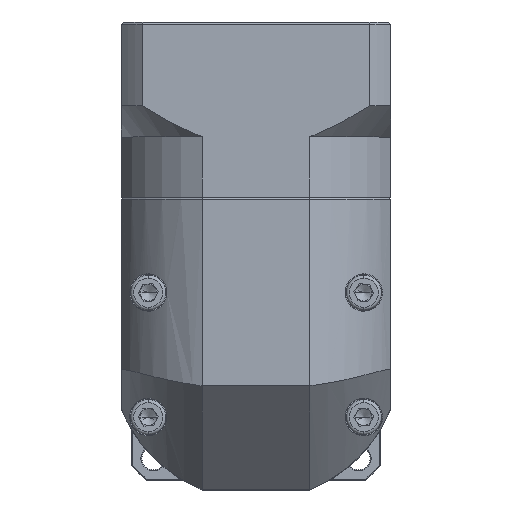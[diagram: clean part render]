
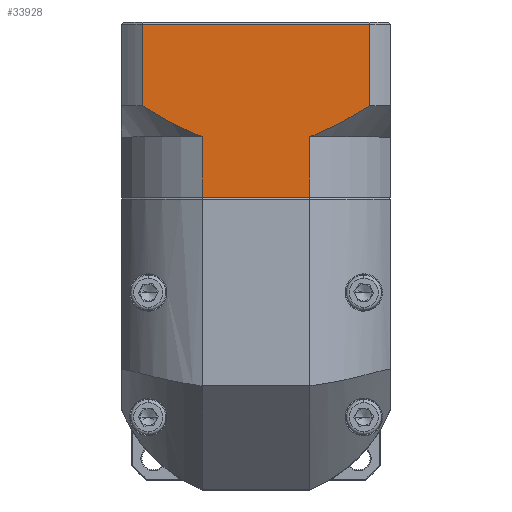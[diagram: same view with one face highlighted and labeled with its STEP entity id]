
A CAD part, top view. The second image highlights one B-rep face of the part: STEP entity #33928.
In plain terms, the highlighted planar face has unit normal (0, 0, 1).
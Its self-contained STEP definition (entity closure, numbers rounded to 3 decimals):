
#298 = VECTOR ( 'NONE', #43413, 1000. ) ;
#1172 = CARTESIAN_POINT ( 'NONE',  ( -93.716, 111.726, 74.497 ) ) ;
#1509 = ORIENTED_EDGE ( 'NONE', *, *, #10105, .F. ) ;
#3596 = CARTESIAN_POINT ( 'NONE',  ( -93.716, 112.226, 74.497 ) ) ;
#4017 = B_SPLINE_CURVE_WITH_KNOTS ( 'NONE', 3,
 ( #56188, #101647, #38727, #91149, #110577, #100879, #47643, #57329 ),
 .UNSPECIFIED., .F., .F.,
 ( 4, 2, 2, 4 ),
 ( 0.058, 0.062, 0.066, 0.074 ),
 .UNSPECIFIED. ) ;
#5671 = VECTOR ( 'NONE', #112156, 1000. ) ;
#10105 = EDGE_CURVE ( 'NONE', #84211, #26375, #19356, .T. ) ;
#10230 = PLANE ( 'NONE',  #92569 ) ;
#12457 = VERTEX_POINT ( 'NONE', #61318 ) ;
#13025 = EDGE_CURVE ( 'NONE', #113148, #12457, #111567, .T. ) ;
#18140 = CARTESIAN_POINT ( 'NONE',  ( -47.584, 84.764, 74.497 ) ) ;
#18513 = CARTESIAN_POINT ( 'NONE',  ( -46.945, 85.017, 74.497 ) ) ;
#19356 = LINE ( 'NONE', #77652, #102766 ) ;
#19749 = CARTESIAN_POINT ( 'NONE',  ( -88.602, 92.026, 74.497 ) ) ;
#20869 = FACE_OUTER_BOUND ( 'NONE', #55506, .T. ) ;
#22098 = VECTOR ( 'NONE', #70366, 1000. ) ;
#23986 = EDGE_CURVE ( 'NONE', #108946, #45841, #42976, .T. ) ;
#24713 = B_SPLINE_CURVE_WITH_KNOTS ( 'NONE', 3,
 ( #71764, #18140, #18513, #35246, #34874, #98149, #44979, #107073, #107477, #61246 ),
 .UNSPECIFIED., .F., .F.,
 ( 4, 2, 2, 2, 4 ),
 ( 0.101, 0.103, 0.105, 0.109, 0.117 ),
 .UNSPECIFIED. ) ;
#26312 = ORIENTED_EDGE ( 'NONE', *, *, #79252, .T. ) ;
#26375 = VERTEX_POINT ( 'NONE', #104600 ) ;
#26965 = CARTESIAN_POINT ( 'NONE',  ( -93.716, 70.026, 74.497 ) ) ;
#27811 = ORIENTED_EDGE ( 'NONE', *, *, #33850, .T. ) ;
#32133 = LINE ( 'NONE', #64859, #5671 ) ;
#33850 = EDGE_CURVE ( 'NONE', #35344, #12457, #58415, .T. ) ;
#33928 = ADVANCED_FACE ( 'NONE', ( #20869 ), #10230, .F. ) ;
#34406 = DIRECTION ( 'NONE',  ( 1., 0., 0. ) ) ;
#34874 = CARTESIAN_POINT ( 'NONE',  ( -45.059, 85.816, 74.497 ) ) ;
#35246 = CARTESIAN_POINT ( 'NONE',  ( -45.683, 85.543, 74.497 ) ) ;
#35344 = VERTEX_POINT ( 'NONE', #115171 ) ;
#38727 = CARTESIAN_POINT ( 'NONE',  ( -86.313, 90.577, 74.497 ) ) ;
#39615 = EDGE_CURVE ( 'NONE', #113148, #26375, #24713, .T. ) ;
#39955 = ORIENTED_EDGE ( 'NONE', *, *, #23986, .F. ) ;
#42976 = LINE ( 'NONE', #54371, #22098 ) ;
#43413 = DIRECTION ( 'NONE',  ( 0., -1., 0. ) ) ;
#44164 = CARTESIAN_POINT ( 'NONE',  ( -33.83, 111.726, 74.497 ) ) ;
#44439 = ORIENTED_EDGE ( 'NONE', *, *, #98175, .F. ) ;
#44979 = CARTESIAN_POINT ( 'NONE',  ( -41.993, 87.272, 74.497 ) ) ;
#45841 = VERTEX_POINT ( 'NONE', #50595 ) ;
#46175 = CARTESIAN_POINT ( 'NONE',  ( -74.207, 84.526, 74.497 ) ) ;
#47496 = DIRECTION ( 'NONE',  ( 0., 0., -1. ) ) ;
#47643 = CARTESIAN_POINT ( 'NONE',  ( -76.745, 85.468, 74.497 ) ) ;
#49341 = LINE ( 'NONE', #1172, #57706 ) ;
#50595 = CARTESIAN_POINT ( 'NONE',  ( -88.602, 111.726, 74.497 ) ) ;
#52141 = ORIENTED_EDGE ( 'NONE', *, *, #104065, .T. ) ;
#54371 = CARTESIAN_POINT ( 'NONE',  ( -88.602, 84.526, 74.497 ) ) ;
#55506 = EDGE_LOOP ( 'NONE', ( #1509, #26312, #39955, #52141, #44439, #27811, #91533, #83951 ) ) ;
#56188 = CARTESIAN_POINT ( 'NONE',  ( -88.602, 92.026, 74.497 ) ) ;
#57178 = DIRECTION ( 'NONE',  ( 0., 1., 0. ) ) ;
#57329 = CARTESIAN_POINT ( 'NONE',  ( -74.207, 84.526, 74.497 ) ) ;
#57706 = VECTOR ( 'NONE', #74239, 1000. ) ;
#58415 = LINE ( 'NONE', #26965, #102936 ) ;
#59313 = DIRECTION ( 'NONE',  ( 0., -1., 0. ) ) ;
#61246 = CARTESIAN_POINT ( 'NONE',  ( -33.83, 92.026, 74.497 ) ) ;
#61318 = CARTESIAN_POINT ( 'NONE',  ( -48.226, 70.026, 74.497 ) ) ;
#64859 = CARTESIAN_POINT ( 'NONE',  ( -74.207, 84.526, 74.497 ) ) ;
#70366 = DIRECTION ( 'NONE',  ( 0., 1., 0. ) ) ;
#71764 = CARTESIAN_POINT ( 'NONE',  ( -48.226, 84.526, 74.497 ) ) ;
#73770 = CARTESIAN_POINT ( 'NONE',  ( -48.226, 84.526, 74.497 ) ) ;
#74239 = DIRECTION ( 'NONE',  ( -1., 0., 0. ) ) ;
#77652 = CARTESIAN_POINT ( 'NONE',  ( -33.83, 84.526, 74.497 ) ) ;
#79252 = EDGE_CURVE ( 'NONE', #84211, #45841, #49341, .T. ) ;
#83951 = ORIENTED_EDGE ( 'NONE', *, *, #39615, .T. ) ;
#84211 = VERTEX_POINT ( 'NONE', #44164 ) ;
#91149 = CARTESIAN_POINT ( 'NONE',  ( -83.978, 89.193, 74.497 ) ) ;
#91533 = ORIENTED_EDGE ( 'NONE', *, *, #13025, .F. ) ;
#92569 = AXIS2_PLACEMENT_3D ( 'NONE', #3596, #47496, #57178 ) ;
#96559 = CARTESIAN_POINT ( 'NONE',  ( -48.226, 84.526, 74.497 ) ) ;
#96891 = VERTEX_POINT ( 'NONE', #46175 ) ;
#98149 = CARTESIAN_POINT ( 'NONE',  ( -43.206, 86.667, 74.497 ) ) ;
#98175 = EDGE_CURVE ( 'NONE', #35344, #96891, #32133, .T. ) ;
#100879 = CARTESIAN_POINT ( 'NONE',  ( -79.197, 86.613, 74.497 ) ) ;
#101647 = CARTESIAN_POINT ( 'NONE',  ( -87.464, 91.293, 74.497 ) ) ;
#102766 = VECTOR ( 'NONE', #59313, 1000. ) ;
#102936 = VECTOR ( 'NONE', #34406, 1000. ) ;
#104065 = EDGE_CURVE ( 'NONE', #108946, #96891, #4017, .T. ) ;
#104600 = CARTESIAN_POINT ( 'NONE',  ( -33.83, 92.026, 74.497 ) ) ;
#107073 = CARTESIAN_POINT ( 'NONE',  ( -38.412, 89.177, 74.497 ) ) ;
#107477 = CARTESIAN_POINT ( 'NONE',  ( -36.098, 90.564, 74.497 ) ) ;
#108946 = VERTEX_POINT ( 'NONE', #19749 ) ;
#110577 = CARTESIAN_POINT ( 'NONE',  ( -82.792, 88.523, 74.497 ) ) ;
#111567 = LINE ( 'NONE', #96559, #298 ) ;
#112156 = DIRECTION ( 'NONE',  ( 0., 1., 0. ) ) ;
#113148 = VERTEX_POINT ( 'NONE', #73770 ) ;
#115171 = CARTESIAN_POINT ( 'NONE',  ( -74.207, 70.026, 74.497 ) ) ;
